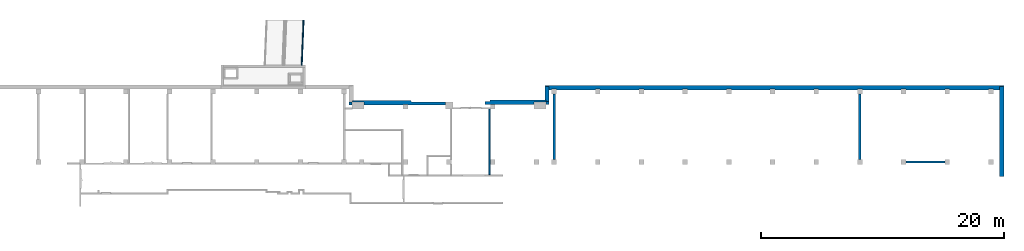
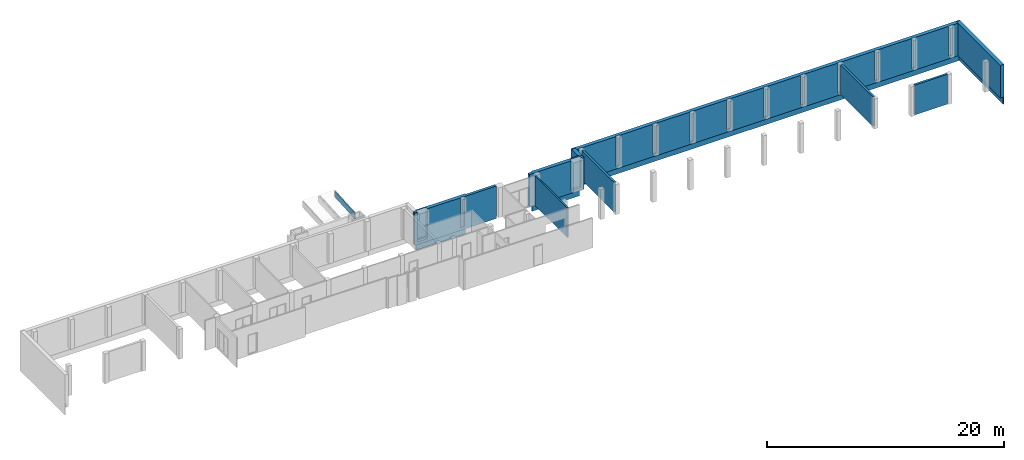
# One storey, part 4 of 6: 10 walls.
"""IFC4 building model written with IfcOpenShell, lengths in metres."""

from ifc_helpers import new_model, entity, si_unit, converted_unit, derived_unit, frame, frame_2d, origin, origin_with_axes, place, context, subcontext, project, spatial, polyline, rectangle, outline, extrude, clip, bounded_halfspace, material, layer, layer_set, layer_usage, element, save


model = new_model("IFC4")

# Units and contexts
model_context = context("Model", 3, precision=1e-05, world=origin())
body_context = subcontext(model_context, "Body", "Model", "MODEL_VIEW")
ifc_project = project(units=[si_unit("LENGTHUNIT", "METRE"), si_unit("AREAUNIT", "SQUARE_METRE"), si_unit("VOLUMEUNIT", "CUBIC_METRE"), si_unit("MASSUNIT", "GRAM", prefix="KILO"), converted_unit("PLANEANGLEUNIT", "DEGREE", entity("IfcPlaneAngleMeasure", 0.0174532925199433), si_unit("PLANEANGLEUNIT", "RADIAN"), dimensions=[0, 0, 0, 0, 0, 0, 0]), derived_unit("THERMALTRANSMITTANCEUNIT", [(si_unit("POWERUNIT", "WATT"), 1), (si_unit("THERMODYNAMICTEMPERATUREUNIT", "KELVIN"), -1), (si_unit("LENGTHUNIT", "METRE"), -2)]), derived_unit("VOLUMETRICFLOWRATEUNIT", [(si_unit("LENGTHUNIT", "METRE"), 3), (converted_unit("TIMEUNIT", "hour", entity("IfcTimeMeasure", 3600.0), si_unit("TIMEUNIT", "SECOND"), dimensions=[0, 0, 1, 0, 0, 0, 0]), -1), (si_unit("LENGTHUNIT", "METRE"), -1)])], contexts=[model_context])

# Site, building, storey
site_placement = place(None, origin())
site = spatial("IfcSite", under=ifc_project, at=site_placement, Name="3. ASŘ", CompositionType="ELEMENT")
building_placement = place(site_placement, origin())
building = spatial("IfcBuilding", under=site, at=building_placement, Name="Pavilon B", CompositionType="ELEMENT")
storey_placement = place(building_placement, frame((0.0, 0.0, -3.3)))
storey = spatial("IfcBuildingStorey", under=building, at=storey_placement, Name="Půdorys 1.PP", CompositionType="ELEMENT", Elevation=-3.3)

# Walls
ifc_material_1 = material(Name="ZELEZOBETONOVÁ KCE")
ifc_layer_1 = layer(ifc_material_1, 0.25)
ifc_material_2 = material(Name="LIGNOPOR")
ifc_layer_2 = layer(ifc_material_2, 0.025)
ifc_material_3 = material(Name="PÓROBETONOVÉ ZDIVO")
ifc_layer_3 = layer(ifc_material_3, 0.08)
ifc_layer_set_1 = layer_set([ifc_layer_1, ifc_layer_2, ifc_layer_3])
ifc_layer_usage_1 = layer_usage(ifc_layer_set_1, "AXIS2", "POSITIVE", 0.0)
wall_1_placement = place(storey_placement, frame((48.7, -16.6, -1.15), z_axis=(0.0, 0.0, 1.0), x_axis=(0.0, 1.0, 0.0)))
element("IfcWall", 1, at=wall_1_placement, inside=storey, material=ifc_layer_usage_1, Name="ZELEZOBETONOVÁ KCE", context=body_context, shape_type="Clipping", body=[
    clip(clip(extrude(outline(polyline([(0.0, -0.355), (1.2, -0.355), (1.2, -0.105), (1.225, -0.105), (1.225, -0.08), (1.305, -0.08), (1.305, 0.0), (0.105, 0.0), (0.105, -0.08), (0.025, -0.08), (0.025, -0.105), (0.0, -0.105), (0.0, -0.355)])), frame((0.0, 0.355, 0.0), z_axis=(0.0, 0.0, 1.0), x_axis=(1.0, 0.0, 0.0)), (0.0, 0.0, 1.0), 4.1), bounded_halfspace(frame((0.6, 0.125, 0.750000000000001), z_axis=(0.0, 0.0, 1.0), x_axis=(0.0, -1.0, 0.0)), True, origin_with_axes(), polyline([(0.0, 0.25), (0.0, 0.0), (1.2, 0.0), (1.2, 0.25), (0.0, 0.25)]))), bounded_halfspace(frame((0.634166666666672, 0.262500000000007, 1.15), z_axis=(0.0, 0.0, 1.0), x_axis=(-1.0, 0.0, 0.0)), True, origin_with_axes(), polyline([(0.105000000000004, 0.275), (0.025, 0.275), (0.025, 0.25), (1.2, 0.25), (1.225, 0.25), (1.225, 0.275), (0.105000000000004, 0.275)]))),
])
ifc_material_4 = material(Name="ZELEZOBETONOVÁ KCE")
ifc_layer_4 = layer(ifc_material_4, 0.25)
ifc_material_5 = material(Name="LIGNOPOR")
ifc_layer_5 = layer(ifc_material_5, 0.025)
ifc_material_6 = material(Name="PÓROBETONOVÉ ZDIVO")
ifc_layer_6 = layer(ifc_material_6, 0.08)
ifc_layer_set_2 = layer_set([ifc_layer_4, ifc_layer_5, ifc_layer_6])
ifc_layer_usage_2 = layer_usage(ifc_layer_set_2, "AXIS2", "POSITIVE", 0.0)
wall_2_placement = place(storey_placement, frame((48.7, -15.65, -1.15)))
solid = clip(clip(clip(clip(clip(clip(clip(clip(extrude(outline(polyline([(0.275, 0.0), (37.395, 0.0), (37.395, 0.25), (37.645, 0.25), (37.645, 0.275), (37.67, 0.275), (37.67, 0.355), (0.0, 0.355), (0.0, 0.275), (0.025, 0.275), (0.025, 0.25), (0.275, 0.25), (0.275, 0.0)])), frame((-0.275, 0.0, 0.0), z_axis=(0.0, 0.0, 1.0), x_axis=(1.0, 0.0, 0.0)), (0.0, 0.0, 1.0), 4.1), bounded_halfspace(frame((18.56, 0.125, 0.750000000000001), z_axis=(0.0, 0.0, 1.0), x_axis=(0.0, -1.0, 0.0)), True, origin_with_axes(), polyline([(0.0, 0.25), (0.0, 0.0), (37.12, 0.0), (37.12, 0.25), (0.0, 0.25)]))), bounded_halfspace(frame((18.56, 0.258333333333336, 1.15), z_axis=(0.0, 0.0, 1.0), x_axis=(0.0, -1.0, 0.0)), True, origin_with_axes(), polyline([(-0.25, 0.275000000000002), (-0.25, 0.250000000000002), (0.0, 0.25), (37.12, 0.25), (37.37, 0.250000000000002), (37.37, 0.275000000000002), (-0.25, 0.275000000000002)]))), bounded_halfspace(frame((3.99999999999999, 0.025, 1.03), z_axis=(0.0, 0.0, -1.0), x_axis=(0.0, 1.0, 0.0)), True, origin_with_axes(), polyline([(4.19999999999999, 0.0), (4.19999999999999, 0.05), (3.79999999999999, 0.05), (3.79999999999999, 0.0), (4.19999999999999, 0.0)]))), bounded_halfspace(frame((7.6, 0.025, 1.03), z_axis=(0.0, 0.0, -1.0), x_axis=(0.0, 1.0, 0.0)), True, origin_with_axes(), polyline([(7.8, 0.0), (7.8, 0.05), (7.4, 0.05), (7.4, 0.0), (7.8, 0.0)]))), bounded_halfspace(frame((11.2, 0.025, 1.03), z_axis=(0.0, 0.0, -1.0), x_axis=(0.0, 1.0, 0.0)), True, origin_with_axes(), polyline([(11.4, 0.0), (11.4, 0.05), (11.0, 0.05), (11.0, 0.0), (11.4, 0.0)]))), bounded_halfspace(frame((14.8, 0.025, 1.03), z_axis=(0.0, 0.0, -1.0), x_axis=(0.0, 1.0, 0.0)), True, origin_with_axes(), polyline([(15.0, 0.0), (15.0, 0.05), (14.6, 0.05), (14.6, 0.0), (15.0, 0.0)]))), bounded_halfspace(frame((18.4, 0.025, 1.03), z_axis=(0.0, 0.0, -1.0), x_axis=(0.0, 1.0, 0.0)), True, origin_with_axes(), polyline([(18.6, 0.0), (18.6, 0.05), (18.2, 0.05), (18.2, 0.0), (18.6, 0.0)]))), bounded_halfspace(frame((22.0, 0.025, 1.03), z_axis=(0.0, 0.0, -1.0), x_axis=(0.0, 1.0, 0.0)), True, origin_with_axes(), polyline([(22.2, 0.0), (22.2, 0.05), (21.8, 0.05), (21.8, 0.0), (22.2, 0.0)])))
element("IfcWall", 2, at=wall_2_placement, inside=storey, material=ifc_layer_usage_2, Name="ZELEZOBETONOVÁ KCE", context=body_context, shape_type="Clipping", body=[
    clip(clip(clip(clip(clip(solid, bounded_halfspace(frame((25.6, 0.025, 1.03), z_axis=(0.0, 0.0, -1.0), x_axis=(0.0, 1.0, 0.0)), True, origin_with_axes(), polyline([(25.8, 0.0), (25.8, 0.05), (25.4, 0.05), (25.4, 0.0), (25.8, 0.0)]))), bounded_halfspace(frame((29.2, 0.025, 1.03), z_axis=(0.0, 0.0, -1.0), x_axis=(0.0, 1.0, 0.0)), True, origin_with_axes(), polyline([(29.4, 0.0), (29.4, 0.05), (29.0, 0.05), (29.0, 0.0), (29.4, 0.0)]))), bounded_halfspace(frame((32.8, 0.025, 1.03), z_axis=(0.0, 0.0, -1.0), x_axis=(0.0, 1.0, 0.0)), True, origin_with_axes(), polyline([(33.0, 0.0), (33.0, 0.05), (32.6, 0.05), (32.6, 0.0), (33.0, 0.0)]))), bounded_halfspace(frame((36.4, 0.025, 1.03), z_axis=(0.0, 0.0, -1.0), x_axis=(0.0, 1.0, 0.0)), True, origin_with_axes(), polyline([(36.6, 0.0), (36.6, 0.05), (36.2, 0.05), (36.2, 0.0), (36.6, 0.0)]))), bounded_halfspace(frame((0.4, 0.025, 1.03), z_axis=(0.0, 0.0, -1.0), x_axis=(0.0, 1.0, 0.0)), True, origin_with_axes(), polyline([(0.6, 0.0), (0.6, 0.05), (0.2, 0.05), (0.2, 0.0), (0.6, 0.0)]))),
])
ifc_material_7 = material(Name="ZELEZOBETONOVÁ KCE")
ifc_layer_7 = layer(ifc_material_7, 0.25)
ifc_material_8 = material(Name="LIGNOPOR")
ifc_layer_8 = layer(ifc_material_8, 0.025)
ifc_material_9 = material(Name="PÓROBETONOVÉ ZDIVO")
ifc_layer_9 = layer(ifc_material_9, 0.08)
ifc_layer_set_3 = layer_set([ifc_layer_7, ifc_layer_8, ifc_layer_9])
ifc_layer_usage_3 = layer_usage(ifc_layer_set_3, "AXIS2", "POSITIVE", 0.0)
wall_3_placement = place(storey_placement, frame((85.82, -15.4, -1.15), z_axis=(0.0, 0.0, 1.0), x_axis=(0.0, -1.0, 0.0)))
element("IfcWall", 3, at=wall_3_placement, inside=storey, material=ifc_layer_usage_3, Name="ZELEZOBETONOVÁ KCE", context=body_context, shape_type="Clipping", body=[
    clip(clip(extrude(outline(polyline([(-7.505, 0.355), (-7.505, 0.275), (-7.425, 0.275), (-7.425, 0.25), (-7.4, 0.25), (-7.4, 0.0), (0.0, 0.0), (0.0, 0.355), (-7.505, 0.355)])), frame((7.4, 0.0, 0.0), z_axis=(0.0, 0.0, 1.0), x_axis=(1.0, 0.0, 0.0)), (0.0, 0.0, 1.0), 4.1), bounded_halfspace(frame((3.7, 0.125, 0.750000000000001), z_axis=(0.0, 0.0, 1.0), x_axis=(0.0, -1.0, 0.0)), True, origin_with_axes(), polyline([(0.0, 0.25), (0.0, 0.0), (7.4, 0.0), (7.4, 0.25), (0.0, 0.25)]))), bounded_halfspace(frame((2.95, 0.259999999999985, 1.15), z_axis=(0.0, 0.0, 1.0), x_axis=(0.0, -1.0, 0.0)), True, origin_with_axes(), polyline([(-0.025, 0.274999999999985), (-0.025, 0.249999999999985), (0.0, 0.25), (7.4, 0.25), (7.4, 0.274999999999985), (-0.025, 0.274999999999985)]))),
])
ifc_material_10 = material(Name="ZELEZOBETONOVÁ KCE")
ifc_layer_10 = layer(ifc_material_10, 0.2)
ifc_layer_set_4 = layer_set([ifc_layer_10])
ifc_layer_usage_4 = layer_usage(ifc_layer_set_4, "AXIS2", "POSITIVE", -0.1)
wall_4_placement = place(storey_placement, frame((78.1, -21.7, -0.12)))
element("IfcWall", 4, at=wall_4_placement, inside=storey, material=ifc_layer_usage_4, Name="ZELEZOBETONOVÁ KCE", context=body_context, shape_type="SweptSolid", body=[
    extrude(rectangle(XDim=3.2, YDim=0.2, at=frame_2d((1.6, 0.1), x_axis=(1.0, 0.0))), origin_with_axes(), (0.0, 0.0, 1.0), 3.07),
])
ifc_material_11 = material(Name="ZELEZOBETONOVÁ KCE")
ifc_layer_11 = layer(ifc_material_11, 0.2)
ifc_layer_set_5 = layer_set([ifc_layer_11])
ifc_layer_usage_5 = layer_usage(ifc_layer_set_5, "AXIS2", "POSITIVE", -0.1)
wall_5_placement = place(storey_placement, frame((74.2, -16.0, -0.12), z_axis=(0.0, 0.0, 1.0), x_axis=(0.0, -1.0, 0.0)))
element("IfcWall", 5, at=wall_5_placement, inside=storey, material=ifc_layer_usage_5, Name="ZELEZOBETONOVÁ KCE", context=body_context, shape_type="SweptSolid", body=[
    extrude(rectangle(XDim=5.4, YDim=0.2, at=frame_2d((2.7, 0.1), x_axis=(1.0, 0.0))), origin_with_axes(), (0.0, 0.0, 1.0), 3.07),
])
ifc_material_12 = material(Name="ZELEZOBETONOVÁ KCE")
ifc_layer_12 = layer(ifc_material_12, 0.2)
ifc_layer_set_6 = layer_set([ifc_layer_12])
ifc_layer_usage_6 = layer_usage(ifc_layer_set_6, "AXIS2", "POSITIVE", -0.1)
wall_6_placement = place(storey_placement, frame((49.0, -16.0, -0.12), z_axis=(0.0, 0.0, 1.0), x_axis=(0.0, -1.0, 0.0)))
element("IfcWall", 6, at=wall_6_placement, inside=storey, material=ifc_layer_usage_6, Name="ZELEZOBETONOVÁ KCE", context=body_context, shape_type="SweptSolid", body=[
    extrude(rectangle(XDim=5.4, YDim=0.2, at=frame_2d((2.7, 0.1), x_axis=(1.0, 0.0))), origin_with_axes(), (0.0, 0.0, 1.0), 3.07),
])
ifc_material_13 = material(Name="ZELEZOBETONOVÁ KCE")
ifc_layer_13 = layer(ifc_material_13, 0.25)
ifc_material_14 = material(Name="LIGNOPOR")
ifc_layer_14 = layer(ifc_material_14, 0.025)
ifc_material_15 = material(Name="PÓROBETONOVÉ ZDIVO")
ifc_layer_15 = layer(ifc_material_15, 0.08)
ifc_layer_set_7 = layer_set([ifc_layer_13, ifc_layer_14, ifc_layer_15])
ifc_layer_usage_7 = layer_usage(ifc_layer_set_7, "AXIS2", "POSITIVE", 0.0)
wall_7_placement = place(storey_placement, frame((43.4, -16.85, -1.15)))
element("IfcWall", 7, at=wall_7_placement, inside=storey, material=ifc_layer_usage_7, Name="ZELEZOBETONOVÁ KCE", context=body_context, shape_type="Clipping", body=[
    clip(clip(clip(extrude(outline(polyline([(0.0, 0.25), (0.0, 0.0), (5.3, 0.0), (5.3, 0.25), (5.05, 0.25), (5.05, 0.275), (5.025, 0.275), (5.025, 0.355), (0.425, 0.355), (0.425, 0.275), (0.4, 0.275), (0.4, 0.25), (0.0, 0.25)])), origin_with_axes(), (0.0, 0.0, 1.0), 4.1), bounded_halfspace(frame((2.65, 0.125, 0.750000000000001), z_axis=(0.0, 0.0, 1.0), x_axis=(0.0, -1.0, 0.0)), True, origin_with_axes(), polyline([(0.0, 0.25), (0.0, 0.0), (5.3, 0.0), (5.3, 0.25), (0.0, 0.25)]))), bounded_halfspace(frame((2.72499999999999, 0.266666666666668, 1.15), z_axis=(0.0, 0.0, 1.0), x_axis=(-1.0, 0.0, 0.0)), True, origin_with_axes(), polyline([(5.025, 0.275), (0.425, 0.275), (0.4, 0.275), (0.4, 0.25), (5.05, 0.25), (5.05, 0.275), (5.025, 0.275)]))), bounded_halfspace(frame((4.54495857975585, 0.1, 1.03), z_axis=(0.0, 0.0, -1.0), x_axis=(0.0, 1.0, 0.0)), True, origin_with_axes(), polyline([(5.04495857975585, 0.0), (5.04495857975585, 0.2), (4.04495857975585, 0.2), (4.04495857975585, 0.0), (5.04495857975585, 0.0)]))),
])
ifc_material_16 = material(Name="PREFA ŽB ENERGOKANÁL")
ifc_layer_16 = layer(ifc_material_16, 0.099999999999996)
ifc_layer_set_8 = layer_set([ifc_layer_16])
ifc_layer_usage_8 = layer_usage(ifc_layer_set_8, "AXIS2", "POSITIVE", 0.0)
wall_8_placement = place(storey_placement, frame((28.4106430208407, -9.90045846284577, 1.72), z_axis=(0.0, 0.0, 1.0), x_axis=(-0.0415315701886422, -0.999137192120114, 0.0)))
element("IfcWall", 8, at=wall_8_placement, inside=storey, material=ifc_layer_usage_8, Name="PREFA ŽB ENERGOKANÁL", context=body_context, shape_type="SweptSolid", body=[
    extrude(outline(polyline([(-3.71353829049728, 0.0), (0.0, 0.0), (-0.0041567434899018, 0.0999999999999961), (-3.71769503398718, 0.0999999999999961), (-3.71353829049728, 0.0)])), frame((3.71353829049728, 0.0, 0.0), z_axis=(0.0, 0.0, 1.0), x_axis=(1.0, 0.0, 0.0)), (0.0, 0.0, 1.0), 0.6),
])
ifc_material_17 = material(Name="ZDIVO Z CDm")
ifc_layer_17 = layer(ifc_material_17, 0.125)
ifc_layer_set_9 = layer_set([ifc_layer_17])
ifc_layer_usage_9 = layer_usage(ifc_layer_set_9, "AXIS2", "POSITIVE", 0.0)
wall_9_placement = place(storey_placement, frame((43.85, -22.65, -0.12), z_axis=(0.0, 0.0, 1.0), x_axis=(0.0, 1.0, 0.0)))
element("IfcWall", 9, at=wall_9_placement, inside=storey, material=ifc_layer_usage_9, Name="ZDIVO Z CDm", context=body_context, shape_type="SweptSolid", body=[
    extrude(rectangle(XDim=5.4, YDim=0.125, at=frame_2d((2.7, 0.0625), x_axis=(1.0, 0.0))), origin_with_axes(), (0.0, 0.0, 1.0), 3.07),
])
ifc_material_18 = material(Name="ZELEZOBETONOVÁ KCE")
ifc_layer_18 = layer(ifc_material_18, 0.25)
ifc_material_19 = material(Name="LIGNOPOR")
ifc_layer_19 = layer(ifc_material_19, 0.025)
ifc_material_20 = material(Name="PÓROBETONOVÉ ZDIVO")
ifc_layer_20 = layer(ifc_material_20, 0.08)
ifc_layer_set_10 = layer_set([ifc_layer_18, ifc_layer_19, ifc_layer_20])
ifc_layer_usage_10 = layer_usage(ifc_layer_set_10, "AXIS2", "POSITIVE", 0.0)
wall_10_placement = place(storey_placement, frame((32.2, -16.9, -1.15)))
element("IfcWall", 10, at=wall_10_placement, inside=storey, material=ifc_layer_usage_10, Name="ZELEZOBETONOVÁ KCE", context=body_context, shape_type="Clipping", body=[
    clip(clip(clip(clip(extrude(outline(polyline([(0.0, 0.0), (7.95, 0.0), (7.95, 0.25), (5.15, 0.25), (5.15, 0.275), (5.125, 0.275), (5.125, 0.355), (0.275, 0.355), (0.275, 0.275), (0.25, 0.275), (0.25, 0.25), (0.0, 0.25), (0.0, 0.0)])), origin_with_axes(), (0.0, 0.0, 1.0), 4.1), bounded_halfspace(frame((2.21376035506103, 0.2625, 1.15), z_axis=(0.0, 0.0, 1.0), x_axis=(-1.0, 0.0, 0.0)), True, origin_with_axes(), polyline([(5.125, 0.275), (0.275, 0.275), (0.25, 0.275), (0.25, 0.25), (0.255041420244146, 0.25), (1.25504142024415, 0.25), (5.15, 0.25), (5.15, 0.275), (5.125, 0.275)]))), bounded_halfspace(frame((3.975, 0.125, 0.750000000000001), z_axis=(0.0, 0.0, 1.0), x_axis=(0.0, -1.0, 0.0)), True, origin_with_axes(), polyline([(0.0, 0.25), (0.0, 0.0), (7.95, 0.0), (7.95, 0.25), (0.0, 0.25)]))), bounded_halfspace(frame((4.65, 0.025, 1.03), z_axis=(0.0, 0.0, -1.0), x_axis=(0.0, 1.0, 0.0)), True, origin_with_axes(), polyline([(4.85, 0.0), (4.85, 0.05), (4.45, 0.05), (4.45, 0.0), (4.85, 0.0)]))), bounded_halfspace(frame((0.755041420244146, 0.125, 1.03), z_axis=(0.0, 0.0, -1.0), x_axis=(0.0, 1.0, 0.0)), True, origin_with_axes(), polyline([(1.25504142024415, 0.0), (1.25504142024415, 0.25), (0.255041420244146, 0.25), (0.255041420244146, 0.0), (1.25504142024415, 0.0)]))),
])

save(model, "model.ifc")
